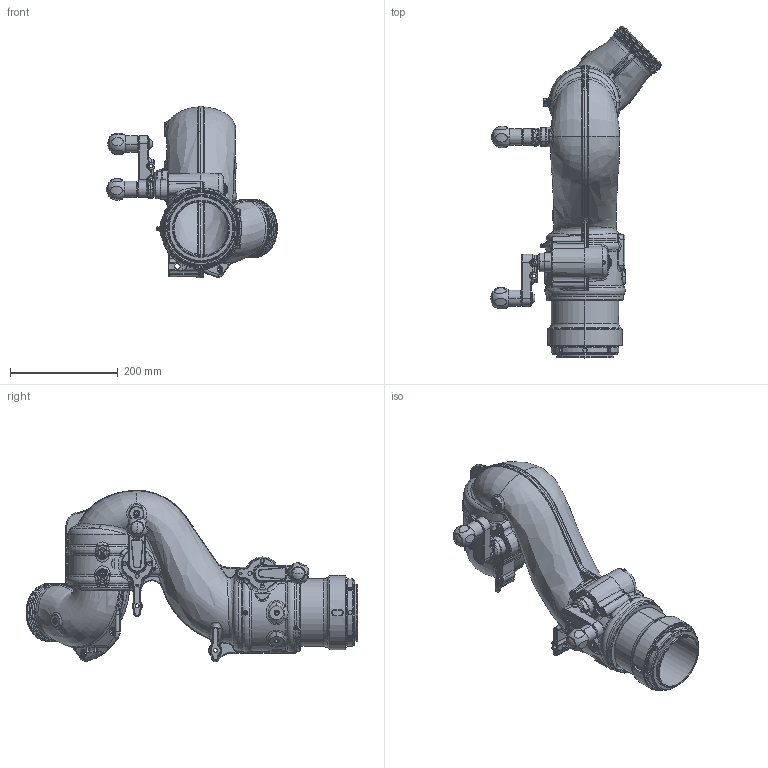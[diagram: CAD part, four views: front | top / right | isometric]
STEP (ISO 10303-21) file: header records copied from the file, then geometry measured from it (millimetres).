
FILE_DESCRIPTION (( 'STEP AP203' ), '1' );
FILE_NAME ('Y5-DX1A-Z_45_Up.STEP', '2014-07-03T16:48:59', ( '' ), ( '' ), 'SwSTEP 2.0', 'SolidWorks 2014', '' );
FILE_SCHEMA (( 'CONFIG_CONTROL_DESIGN' ));
Length unit declared in the file: inch
Products named in the file (1): Y5-DX1A-Z_45_Up
Bounding box: 317.53 x 616.76 x 318.53 mm (x, y, z)
Surface area: 602694.9 mm2 (no closed solid volume)
Topology: 0 solids, 60 shells, 1764 faces, 4856 edges, 3060 vertices
Faces by surface type: bspline 411, plane 351, cylinder 330, cone 320, torus 301, sphere 51
Entity records: 136924 total; most frequent: CARTESIAN_POINT 95881, ORIENTED_EDGE 8596, DIRECTION 8049, EDGE_CURVE 4837, AXIS2_PLACEMENT_3D 3363, VERTEX_POINT 3056, CIRCLE 2009, EDGE_LOOP 1881
